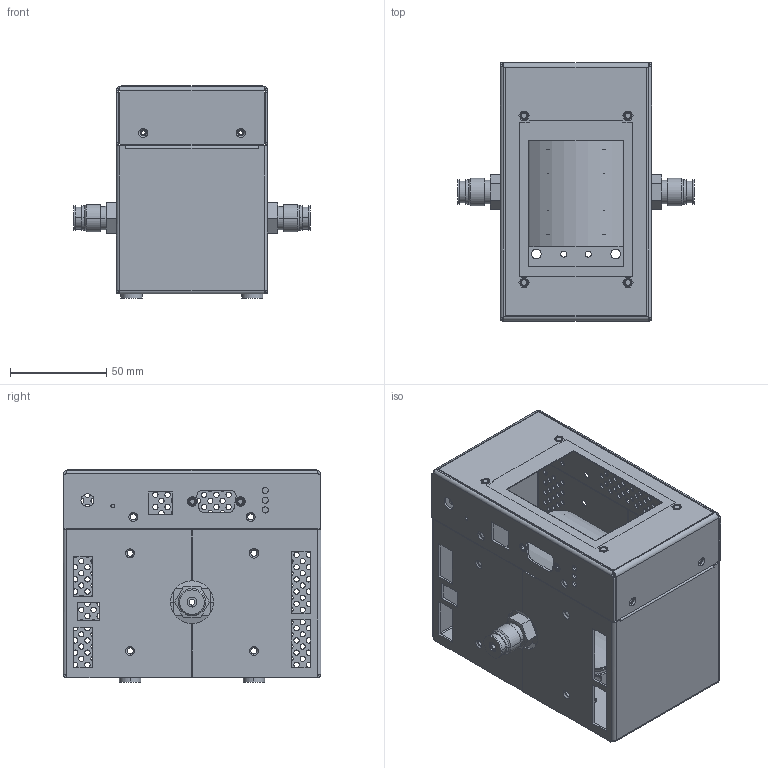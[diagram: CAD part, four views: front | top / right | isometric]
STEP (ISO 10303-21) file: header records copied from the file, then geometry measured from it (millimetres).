
FILE_DESCRIPTION((''),'2;1');
FILE_NAME('3DBGA244_ASM','2022-02-10T10:26:08',('gaw'),(''),'CREO PARAMETRIC BY PTC INC, 2021164','CREO PARAMETRIC BY PTC INC, 2021164','');
FILE_SCHEMA(('CONFIG_CONTROL_DESIGN'));
Length unit declared in the file: inch
Products named in the file (22): QQQQQ_1_1; CLS-440-1_2_1; QQQQQ_ASM_1_ASM_1_ASM; HHHHH_1_1; HHHHHH_ASM_1_ASM_1_ASM; GGGGG_1_1; SOS-440-6_5_1; FEOX-440_2_1; GGGGG_ASM_1_ASM_1_ASM; 0-188_FOOT_RUBBER_3_1; TTTTT1_1_1; TTTTT_1_1; TTTTT_ASM_1_ASM_1_ASM; BGA244_ASM_1_ASM_1_ASM; BGA244_ASM_ASM_1_ASM; 7-02520-721_CYLINDER_THRU_HOLES; SWAGELOK_SS-4-VCR-3-4MTW; SWAGELOC_MALE_NUT_SS-4-VCR-4; MCMASTER-CARR_92917A140; SWAGELOC_SS-4-CP_ASM; 7-02518-724_WELDMENT_M_M_ASM; 3DBGA244_ASM
Assembly tree (35 placements, depth 5):
  3DBGA244_ASM
    BGA244_ASM_ASM_1_ASM
      BGA244_ASM_1_ASM_1_ASM
        QQQQQ_ASM_1_ASM_1_ASM
          QQQQQ_1_1
          CLS-440-1_2_1  x2
        HHHHHH_ASM_1_ASM_1_ASM
          HHHHH_1_1
          CLS-440-1_2_1  x2
        GGGGG_ASM_1_ASM_1_ASM
          GGGGG_1_1
          SOS-440-6_5_1  x4
          FEOX-440_2_1  x2
        0-188_FOOT_RUBBER_3_1  x4
        TTTTT_ASM_1_ASM_1_ASM
          TTTTT1_1_1
          TTTTT_1_1
    7-02518-724_WELDMENT_M_M_ASM
      7-02520-721_CYLINDER_THRU_HOLES
      SWAGELOK_SS-4-VCR-3-4MTW  x2
      SWAGELOC_MALE_NUT_SS-4-VCR-4  x2
      MCMASTER-CARR_92917A140  x2
      SWAGELOC_SS-4-CP_ASM  x2
Bounding box: 122.83 x 134.14 x 110.34 mm (x, y, z)
Volume: 190199.2 mm3; surface area: 195842.8 mm2
Topology: 26 solids, 52 shells, 1256 faces, 3408 edges, 2232 vertices
Faces by surface type: cylinder 782, plane 366, cone 100, bspline 8
Entity records: 37597 total; most frequent: DIRECTION 6956, CARTESIAN_POINT 6608, ORIENTED_EDGE 5940, EDGE_CURVE 3008, AXIS2_PLACEMENT_3D 2809, VERTEX_POINT 1986, EDGE_LOOP 1628, CIRCLE 1625
